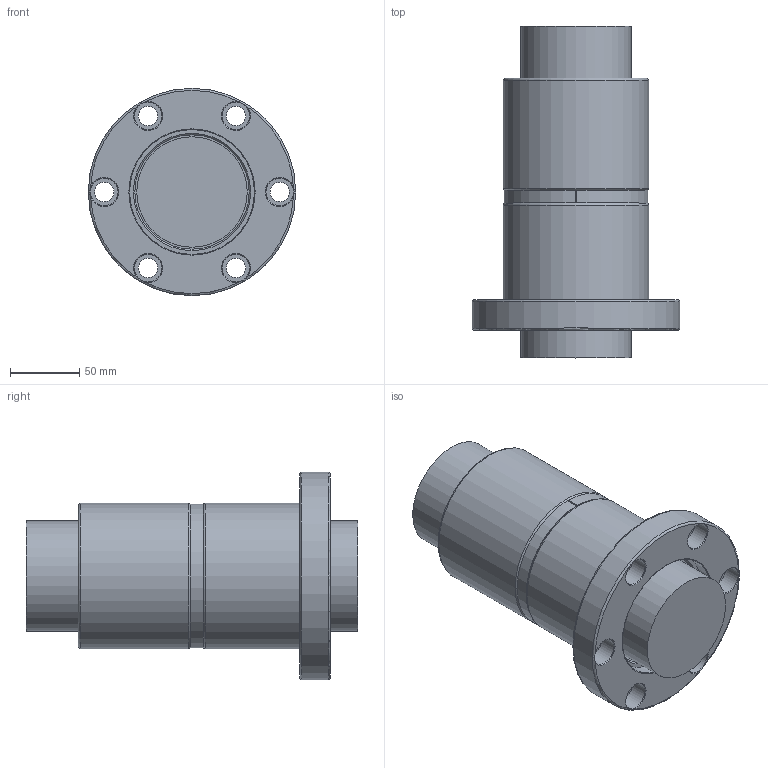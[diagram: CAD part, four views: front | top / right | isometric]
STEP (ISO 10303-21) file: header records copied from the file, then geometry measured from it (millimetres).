
FILE_DESCRIPTION(/* description */ (''),/* implementation_level */ '2;1');
FILE_NAME(/* name */ '8010.prt.step',/* time_stamp */ '2008-12-05T09:22:49+08:00',/* author */ (''),/* organization */ (''),/* preprocessor_version */ 'ST-DEVELOPER v11',/* originating_system */ 'SIEMENS UGS NX 6.0',/* authorisation */ '');
FILE_SCHEMA (('AUTOMOTIVE_DESIGN { 1 0 10303 214 1 1 1 1 }'));
Length unit declared in the file: millimetre
Products named in the file (1): 8010
Bounding box: 150 x 240 x 150 mm (x, y, z)
Volume: 2299605.1 mm3; surface area: 215798.4 mm2
Topology: 5 solids, 5 shells, 64 faces, 141 edges, 92 vertices
Faces by surface type: cylinder 25, plane 25, cone 8, torus 6
Full cylindrical faces by diameter (mm): 14 x6, 20 x6, 79.95 x1, 82.7 x1, 90.3 x4, 105 x2, 150 x1
Entity records: 1568 total; most frequent: DIRECTION 284, CARTESIAN_POINT 263, ORIENTED_EDGE 182, AXIS2_PLACEMENT_3D 134, EDGE_LOOP 118, FACE_BOUND 102, EDGE_CURVE 91, VERTEX_POINT 77
